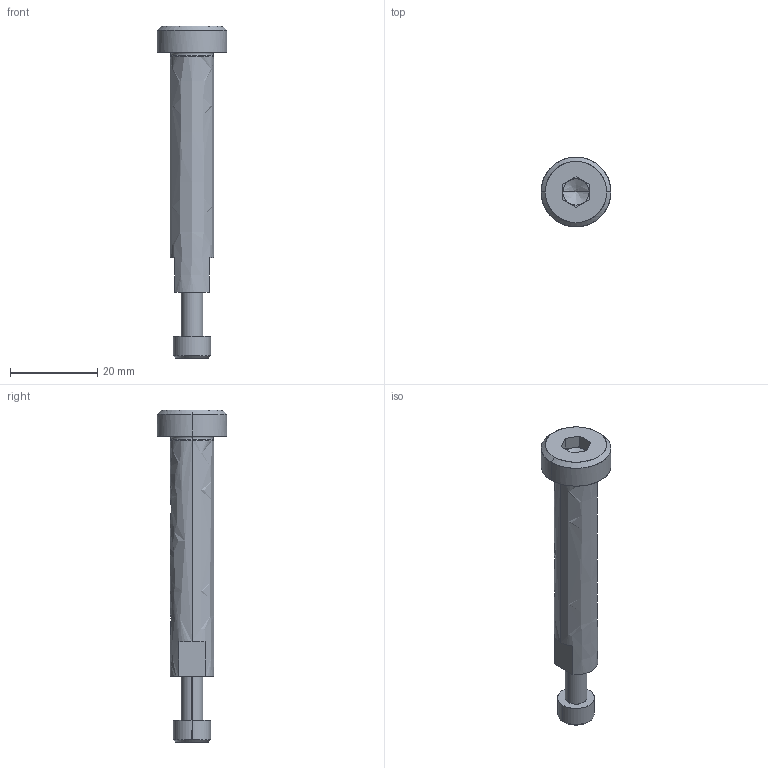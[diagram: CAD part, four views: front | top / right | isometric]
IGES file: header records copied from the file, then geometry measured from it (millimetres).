
Global section: file name: E:\UnigraphicsGraphicData\MISUMI_PRESS-PARTS\IGES\3d_sbt10-55_05056_r00.igs; native system: NX V5.0; preprocessor: UGS NX IGES V5.0; author: MISUMI; date: 20110105.162433; units: millimetre
Bounding box: 16 x 16 x 76 mm (x, y, z)
Surface area: 3388.8 mm2 (no closed solid volume)
Topology: 0 solids, 0 shells, 56 faces, 300 edges, 296 vertices
Faces by surface type: bspline 56
